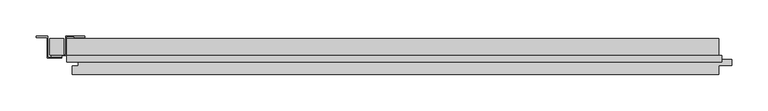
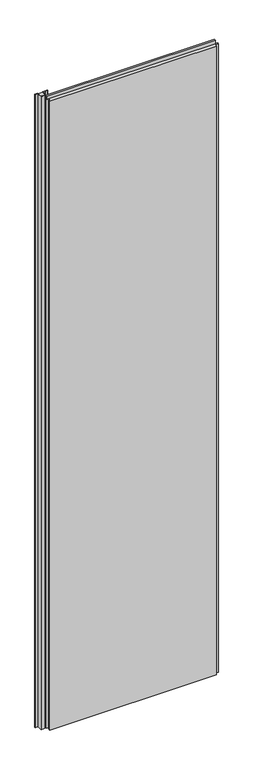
"""IFC4 building model written with IfcOpenShell, lengths in millimetres: plate geometry, Trimo_Qbiss Screen_Normal Panel-VERTICAL : HR - FB."""

import ifcopenshell
import ifcopenshell.guid

model = None  # the IFC model being written
_history = None  # IfcOwnerHistory: only IFC2X3 demands one
_inside = {}  # id of a spatial element -> (the spatial element, [elements in it])
_under = {}  # id of a project, library or spatial element -> (it, [spatial elements below it])
_declared = {}  # id of a project -> (the project, [libraries it declares])
_typed = {}  # id of a type object -> (the type object, [elements of that type])
_made_of = {}  # id of a material, layer set ... -> (it, [elements and type objects made of it])


def new_model(schema):
    """Start an empty IFC model of exactly this schema.

    Asked for "IFC4X3", IfcOpenShell would pick the latest addendum, in which some entities
    have other attributes; the version numbers below select the first issue.
    IFC2X3 requires an IfcOwnerHistory on every rooted entity: one is made here for all.
    """
    global model, _history
    if schema == "IFC4X3":
        model = ifcopenshell.file(schema_version=(4, 3, 0, 0))
    else:
        model = ifcopenshell.file(schema=schema)
    _inside.clear()
    _under.clear()
    _declared.clear()
    _typed.clear()
    _made_of.clear()
    _history = None
    if model.schema == "IFC2X3":
        org = make("IfcOrganization", Name="unknown")
        user = make(
            "IfcPersonAndOrganization",
            ThePerson=make("IfcPerson", FamilyName="unknown"),
            TheOrganization=org,
        )
        app = make(
            "IfcApplication",
            ApplicationDeveloper=org,
            Version="unknown",
            ApplicationFullName="unknown",
            ApplicationIdentifier="unknown",
        )
        _history = make(
            "IfcOwnerHistory",
            OwningUser=user,
            OwningApplication=app,
            ChangeAction="ADDED",
            CreationDate=0,
        )
    return model


def make(cls, **values):
    """One entity of the class cls with the attributes given. An attribute that is None is left unset."""
    return model.create_entity(
        cls, **{name: value for name, value in values.items() if value is not None}
    )


def rooted(cls, **values):
    """An entity with a GlobalId (a new one), such as an element, a storey or a relation."""
    return make(cls, GlobalId=ifcopenshell.guid.new(), OwnerHistory=_history, **values)


def si_unit(unit_type, name, prefix=None):
    """IfcSIUnit, for example si_unit("LENGTHUNIT", "METRE", prefix="MILLI")."""
    return make("IfcSIUnit", UnitType=unit_type, Prefix=prefix, Name=name)


def assignment(units):
    """IfcUnitAssignment: the units of a project."""
    return None if units is None else make("IfcUnitAssignment", Units=units)


def point(xyz):
    """IfcCartesianPoint."""
    return None if xyz is None else make("IfcCartesianPoint", Coordinates=xyz)


def direction(xyz):
    """IfcDirection."""
    return None if xyz is None else make("IfcDirection", DirectionRatios=xyz)


def frame(location, z_axis=None, x_axis=None):
    """IfcAxis2Placement3D, a coordinate frame: its origin and axes. An axis left out is left unset."""
    return make(
        "IfcAxis2Placement3D",
        Location=point(location),
        Axis=direction(z_axis),
        RefDirection=direction(x_axis),
    )


def origin():
    """The frame at (0, 0, 0) with its axes left unset."""
    return frame((0.0, 0.0, 0.0))


def place(relative_to, where):
    """IfcLocalPlacement: puts the frame where relative to a parent placement (None: the world)."""
    return make(
        "IfcLocalPlacement", PlacementRelTo=relative_to, RelativePlacement=where
    )


def context(
    kind, dimensions, precision=None, world=None, true_north=None, identifier=None
):
    """IfcGeometricRepresentationContext, for example the 3D "Model" context."""
    return make(
        "IfcGeometricRepresentationContext",
        ContextIdentifier=identifier,
        ContextType=kind,
        CoordinateSpaceDimension=dimensions,
        Precision=precision,
        WorldCoordinateSystem=world,
        TrueNorth=true_north,
    )


def project(units=None, contexts=None):
    """IfcProject with its units and contexts."""
    return rooted(
        "IfcProject",
        Name="project",
        RepresentationContexts=contexts,
        UnitsInContext=assignment(units),
    )


def spatial(cls, under=None, at=None, **own):
    """A site, building, storey or space (cls), placed at a placement, below another one or the project."""
    s = rooted(cls, ObjectPlacement=at, **own)
    if under is not None:
        _under.setdefault(under.id(), (under, []))[1].append(s)
    return s


def polyline(points):
    """IfcPolyline through the points."""
    return make("IfcPolyline", Points=[point(p) for p in points])


def outline(outer, holes=None, kind="AREA"):
    """IfcArbitraryClosedProfileDef: a profile drawn as a closed curve; with holes, ...WithVoids."""
    if holes is None:
        return make("IfcArbitraryClosedProfileDef", ProfileType=kind, OuterCurve=outer)
    return make(
        "IfcArbitraryProfileDefWithVoids",
        ProfileType=kind,
        OuterCurve=outer,
        InnerCurves=holes,
    )


def extrude(swept, where, along, depth):
    """IfcExtrudedAreaSolid: the profile swept, set in the frame where, extruded along a direction by depth."""
    return make(
        "IfcExtrudedAreaSolid",
        SweptArea=swept,
        Position=where,
        ExtrudedDirection=direction(along),
        Depth=depth,
    )


def shape(context_of_items, identifier, shape_type, items):
    """IfcShapeRepresentation: the items that make up one representation, for example the "Body"."""
    return make(
        "IfcShapeRepresentation",
        ContextOfItems=context_of_items,
        RepresentationIdentifier=identifier,
        RepresentationType=shape_type,
        Items=items,
    )


def source(mapping_origin, context_of_items, identifier, shape_type, items):
    """IfcRepresentationMap: a shape defined once, which mapped items show again and again."""
    return make(
        "IfcRepresentationMap",
        MappingOrigin=mapping_origin,
        MappedRepresentation=shape(context_of_items, identifier, shape_type, items),
    )


def transform(
    local_origin,
    x_axis=None,
    y_axis=None,
    z_axis=None,
    scale=None,
    scale2=None,
    scale3=None,
    uniform=True,
):
    """IfcCartesianTransformationOperator3D, or its non-uniform kind. x_axis, y_axis, z_axis: its Axis1, 2, 3."""
    if uniform:
        return make(
            "IfcCartesianTransformationOperator3D",
            Axis1=direction(x_axis),
            Axis2=direction(y_axis),
            LocalOrigin=point(local_origin),
            Scale=scale,
            Axis3=direction(z_axis),
        )
    return make(
        "IfcCartesianTransformationOperator3DnonUniform",
        Axis1=direction(x_axis),
        Axis2=direction(y_axis),
        LocalOrigin=point(local_origin),
        Scale=scale,
        Axis3=direction(z_axis),
        Scale2=scale2,
        Scale3=scale3,
    )


def mapped(mapping_source, mapping_target):
    """IfcMappedItem: shows the shape of a source again, moved by a transform."""
    return make(
        "IfcMappedItem", MappingSource=mapping_source, MappingTarget=mapping_target
    )


def made_of(thing, what):
    """Note that an element or type object is made of a material, layer set ...; save() writes the relation."""
    if what is not None:
        _made_of.setdefault(what.id(), (what, []))[1].append(thing)
    return thing


def element(
    cls,
    number,
    at=None,
    inside=None,
    cuts=None,
    type_object=None,
    material=None,
    context=None,
    identifier="Body",
    shape_type=None,
    held_by="IfcProductDefinitionShape",
    body=None,
    shapes=None,
    **own,
):
    """One element of the class cls, such as IfcWall. Its Tag is "e" and its number.

    at: its placement. inside: the storey or other place that contains it. cuts: it is an
    opening in that element (IfcRelVoidsElement). A single representation is given by context,
    identifier, shape_type and body (its items); several are given by shapes. held_by: the class
    of the entity that holds the representations. save() writes the other relations.
    """
    e = rooted(cls, Tag="e%d" % number, ObjectPlacement=at, **own)
    if body is not None:
        shapes = [shape(context, identifier, shape_type, body)]
    if shapes is not None:
        e.Representation = make(held_by, Representations=shapes)
    if inside is not None:
        _inside.setdefault(inside.id(), (inside, []))[1].append(e)
    if cuts is not None:
        rooted(
            "IfcRelVoidsElement", RelatingBuildingElement=cuts, RelatedOpeningElement=e
        )
    if type_object is not None:
        _typed.setdefault(type_object.id(), (type_object, []))[1].append(e)
    return made_of(e, material)


def aggregate(whole, parts):
    """IfcRelAggregates: a whole, such as a stair, and the parts it consists of."""
    return rooted("IfcRelAggregates", RelatingObject=whole, RelatedObjects=parts)


def save(model, path):
    """Write the relations noted so far, then the file.

    IfcRelAggregates (storeys below a building ...), IfcRelContainedInSpatialStructure (elements
    in a storey), IfcRelDefinesByType, IfcRelAssociatesMaterial and IfcRelDeclares: one each for
    every whole, place, type object, material and project.
    """
    for whole, parts in _under.values():
        aggregate(whole, parts)
    for where, things in _inside.values():
        rooted(
            "IfcRelContainedInSpatialStructure",
            RelatedElements=things,
            RelatingStructure=where,
        )
    for kind, things in _typed.values():
        rooted("IfcRelDefinesByType", RelatedObjects=things, RelatingType=kind)
    for what, things in _made_of.values():
        rooted("IfcRelAssociatesMaterial", RelatedObjects=things, RelatingMaterial=what)
    for by, libraries in _declared.values():
        rooted("IfcRelDeclares", RelatingContext=by, RelatedDefinitions=libraries)
    model.write(path)


def plate_7937e4e1(model_context):
    return source(origin(), model_context, "Body", "SweptSolid", [
        extrude(outline(polyline([(-436.8, 126.0), (-436.8, 103.2), (-455.8, 103.2), (-455.8, 126.0), (-436.8, 126.0)])), frame((0.0, 0.0, 12.5), z_axis=(0.0, 0.0, 1.0), x_axis=(1.0, 0.0, 0.0)), (0.0, 0.0, 1.0), 3600.0),
        extrude(outline(polyline([(-407.0, 127.6), (-422.0, 127.6), (-422.0, 128.4), (-407.8, 128.4), (-407.8, 129.2), (-433.0, 129.2), (-433.0, 102.4), (-453.2, 102.4), (-453.2, 101.6), (-439.0, 101.6), (-439.0, 100.8), (-454.0, 100.8), (-454.0, 103.2), (-433.8, 103.2), (-433.8, 130.0), (-407.0, 130.0), (-407.0, 127.6)])), frame((0.0, 0.0, 12.5), z_axis=(0.0, 0.0, 1.0), x_axis=(1.0, 0.0, 0.0)), (0.0, 0.0, 1.0), 3600.0),
        extrude(outline(polyline([(-439.0, 100.0), (-439.0, 99.2), (-459.6, 99.2), (-459.6, 129.2), (-474.2, 129.2), (-474.2, 128.4), (-460.0, 128.4), (-460.0, 127.6), (-475.0, 127.6), (-475.0, 130.0), (-458.8, 130.0), (-458.8, 100.0), (-439.0, 100.0)])), frame((0.0, 0.0, 12.5), z_axis=(0.0, 0.0, 1.0), x_axis=(1.0, 0.0, 0.0)), (0.0, 0.0, 1.0), 3600.0),
        extrude(outline(polyline([(-432.0, 93.9), (-432.0, 102.6), (477.0, 102.6), (477.0, 93.9), (-432.0, 93.9)])), frame((0.0, 0.0, 3590.5), z_axis=(0.0, 0.0, 1.0), x_axis=(1.0, 0.0, 0.0)), (0.0, 0.0, 1.0), 19.0),
        extrude(outline(polyline([(473.0, 97.0), (491.5, 97.0), (491.5, 89.0), (473.0, 89.0), (473.0, 76.0), (-425.0, 76.0), (-425.0, 88.0), (-416.5, 88.0), (-416.5, 98.0), (-432.0, 98.0), (-432.0, 126.0), (473.0, 126.0), (473.0, 97.0)])), frame((0.0, 0.0, 12.5), z_axis=(0.0, 0.0, 1.0), x_axis=(1.0, 0.0, 0.0)), (0.0, 0.0, 1.0), 3575.0),
    ])


if __name__ == "__main__":
    model = new_model("IFC4")
    model_context = context("Model", 3, world=origin())
    ifc_project = project(units=[si_unit("LENGTHUNIT", "METRE", prefix="MILLI")], contexts=[model_context])
    site = spatial("IfcSite", under=ifc_project)
    building = spatial("IfcBuilding", under=site)
    placement = place(None, origin())
    plate_shape = plate_7937e4e1(model_context)
    element("IfcPlate", 1, ObjectType="Trimo_Qbiss Screen_Normal Panel-VERTICAL : HR - FB", at=placement, inside=building, context=model_context, shape_type="MappedRepresentation", body=[
        mapped(plate_shape, transform((0.0, 0.0, 0.0), x_axis=(1.0, 0.0, 0.0), y_axis=(0.0, 1.0, 0.0), z_axis=(0.0, 0.0, 1.0))),
    ])
    save(model, "model.ifc")
